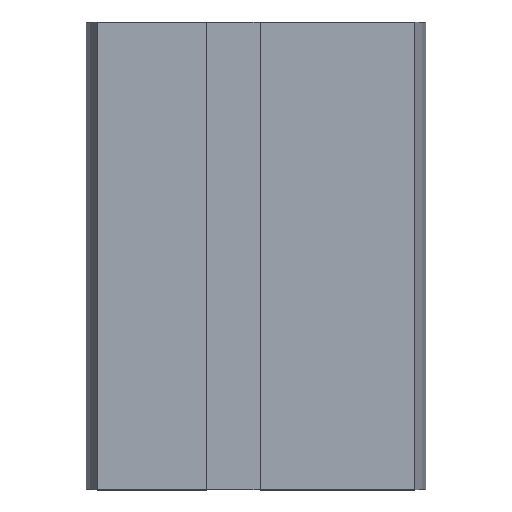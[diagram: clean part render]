
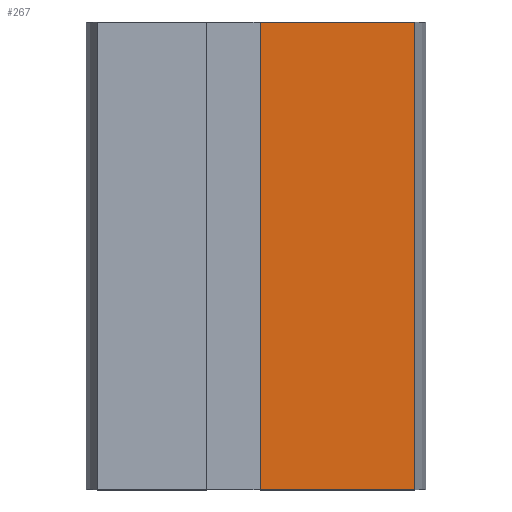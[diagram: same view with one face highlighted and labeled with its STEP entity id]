
A CAD part, top view. The second image highlights one B-rep face of the part: STEP entity #267.
In plain terms, the highlighted planar face has unit normal (0, 0, 1).
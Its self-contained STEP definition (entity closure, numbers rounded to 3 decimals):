
#31=FACE_OUTER_BOUND('',#45,.T.);
#45=EDGE_LOOP('',(#213,#214,#215,#216));
#75=LINE('',#445,#107);
#76=LINE('',#448,#108);
#77=LINE('',#450,#109);
#78=LINE('',#451,#110);
#107=VECTOR('',#368,10.);
#108=VECTOR('',#371,10.);
#109=VECTOR('',#372,10.);
#110=VECTOR('',#373,10.);
#133=VERTEX_POINT('',#441);
#134=VERTEX_POINT('',#443);
#135=VERTEX_POINT('',#447);
#136=VERTEX_POINT('',#449);
#167=EDGE_CURVE('',#133,#134,#75,.T.);
#168=EDGE_CURVE('',#135,#133,#76,.T.);
#169=EDGE_CURVE('',#136,#134,#77,.T.);
#170=EDGE_CURVE('',#135,#136,#78,.T.);
#213=ORIENTED_EDGE('',*,*,#168,.T.);
#214=ORIENTED_EDGE('',*,*,#167,.T.);
#215=ORIENTED_EDGE('',*,*,#169,.F.);
#216=ORIENTED_EDGE('',*,*,#170,.F.);
#253=PLANE('',#308);
#267=ADVANCED_FACE('',(#31),#253,.T.);
#308=AXIS2_PLACEMENT_3D('',#446,#369,#370);
#368=DIRECTION('',(0.,1.,0.));
#369=DIRECTION('center_axis',(0.,0.,1.));
#370=DIRECTION('ref_axis',(1.,0.,0.));
#371=DIRECTION('',(1.,0.,0.));
#372=DIRECTION('',(1.,0.,0.));
#373=DIRECTION('',(0.,1.,0.));
#441=CARTESIAN_POINT('',(18.688,0.,7.126));
#443=CARTESIAN_POINT('',(18.688,55.,7.126));
#445=CARTESIAN_POINT('',(18.688,0.,7.126));
#446=CARTESIAN_POINT('Origin',(0.484,0.,7.126));
#447=CARTESIAN_POINT('',(0.484,0.,7.126));
#448=CARTESIAN_POINT('',(0.,0.,7.126));
#449=CARTESIAN_POINT('',(0.484,55.,7.126));
#450=CARTESIAN_POINT('',(0.,55.,7.126));
#451=CARTESIAN_POINT('',(0.484,0.,7.126));
